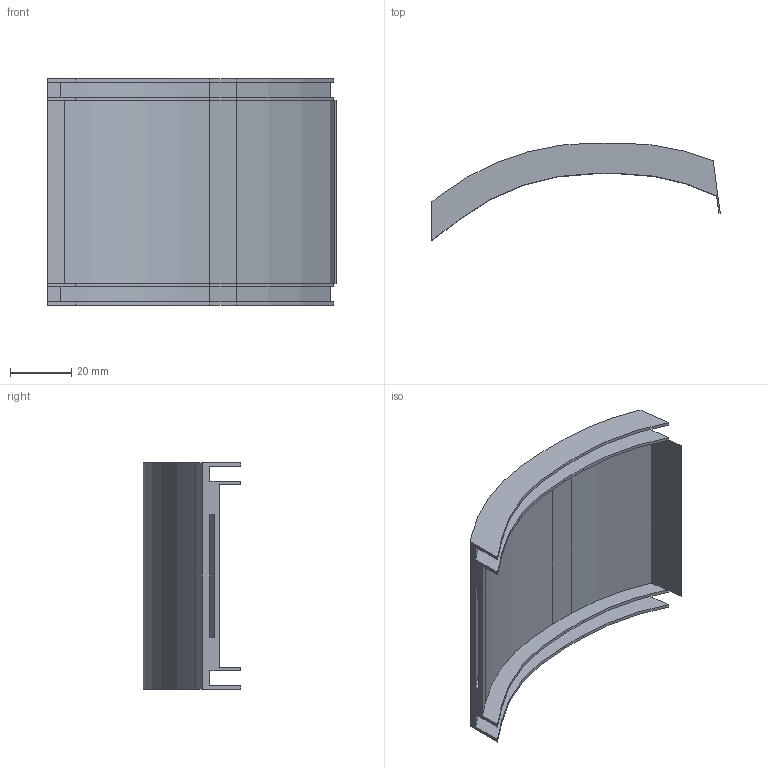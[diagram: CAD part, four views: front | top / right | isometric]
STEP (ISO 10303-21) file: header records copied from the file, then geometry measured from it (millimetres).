
FILE_DESCRIPTION(('STEP AP203'), '1');
FILE_NAME('ðåçîíàòîð 4', '', ('UNSPECIFIED'), ('UNSPECIFIED'), 'ASCON STEP Converter 1.3', 'ASCON Math Kernel', '');
FILE_SCHEMA(('CONFIG_CONTROL_DESIGN'));
Length unit declared in the file: millimetre
Bounding box: 94.39 x 31.94 x 74 mm (x, y, z)
Volume: 27964.2 mm3; surface area: 31023.7 mm2
Topology: 1 solids, 1 shells, 57 faces, 163 edges, 108 vertices
Faces by surface type: plane 37, cylinder 20
Entity records: 2367 total; most frequent: CARTESIAN_POINT 329, ORIENTED_EDGE 326, DIRECTION 321, EDGE_CURVE 163, LINE 121, VECTOR 121, VERTEX_POINT 108, AXIS2_PLACEMENT_3D 100
